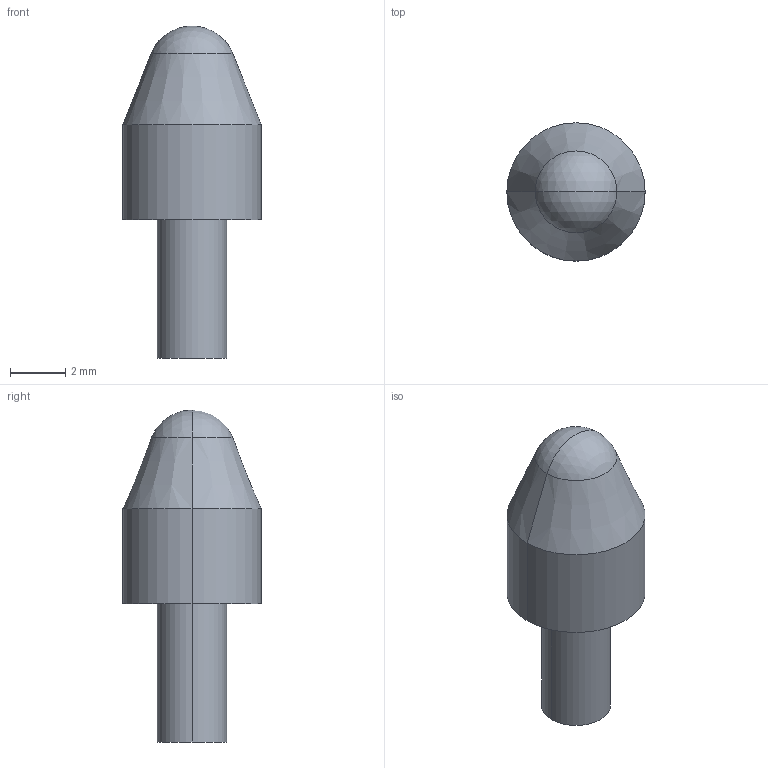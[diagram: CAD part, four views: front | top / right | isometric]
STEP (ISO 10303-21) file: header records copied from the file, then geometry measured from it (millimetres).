
FILE_DESCRIPTION (( 'STEP AP203' ), '1' );
FILE_NAME ('tr-s10-c.STEP', '2016-10-07T01:42:28', ( '' ), ( '' ), 'SwSTEP 2.0', 'SolidWorks 2014', '' );
FILE_SCHEMA (( 'CONFIG_CONTROL_DESIGN' ));
Length unit declared in the file: millimetre
Products named in the file (1): tr-s10-c
Bounding box: 5 x 5 x 12 mm (x, y, z)
Volume: 128.5 mm3; surface area: 157.4 mm2
Topology: 1 solids, 1 shells, 10 faces, 18 edges, 11 vertices
Faces by surface type: cylinder 4, cone 2, sphere 2, plane 2
Entity records: 327 total; most frequent: DIRECTION 52, CARTESIAN_POINT 40, ORIENTED_EDGE 36, AXIS2_PLACEMENT_3D 23, EDGE_CURVE 18, CIRCLE 12, VERTEX_POINT 11, EDGE_LOOP 11
